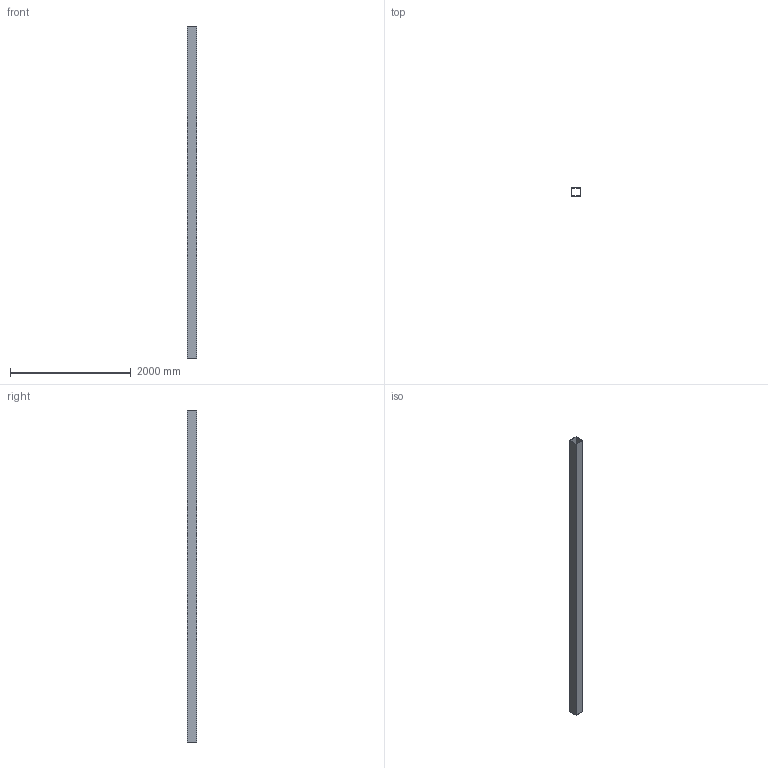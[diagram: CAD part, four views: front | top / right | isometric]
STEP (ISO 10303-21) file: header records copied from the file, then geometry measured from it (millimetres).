
FILE_DESCRIPTION(('Open CASCADE Model'),'2;1');
FILE_NAME('Open CASCADE Shape Model','2026-10-19T10:09:18',('Author'),( 'Open CASCADE'),'Open CASCADE STEP processor 8.0','Open CASCADE 8.0' ,'Unknown');
FILE_SCHEMA(('AUTOMOTIVE_DESIGN { 1 0 10303 214 1 1 1 1 }'));
Length unit declared in the file: millimetre
Products named in the file (1): Open CASCADE STEP translator 8.0 1
Bounding box: 150 x 150 x 5488 mm (x, y, z)
Volume: 18966528 mm3; surface area: 6329088 mm2
Topology: 1 solids, 1 shells, 10 faces, 24 edges, 16 vertices
Faces by surface type: plane 10
Entity records: 614 total; most frequent: CARTESIAN_POINT 99, DIRECTION 94, LINE 72, VECTOR 72, ORIENTED_EDGE 48, PCURVE 48, DEFINITIONAL_REPRESENTATION 48, EDGE_CURVE 24
